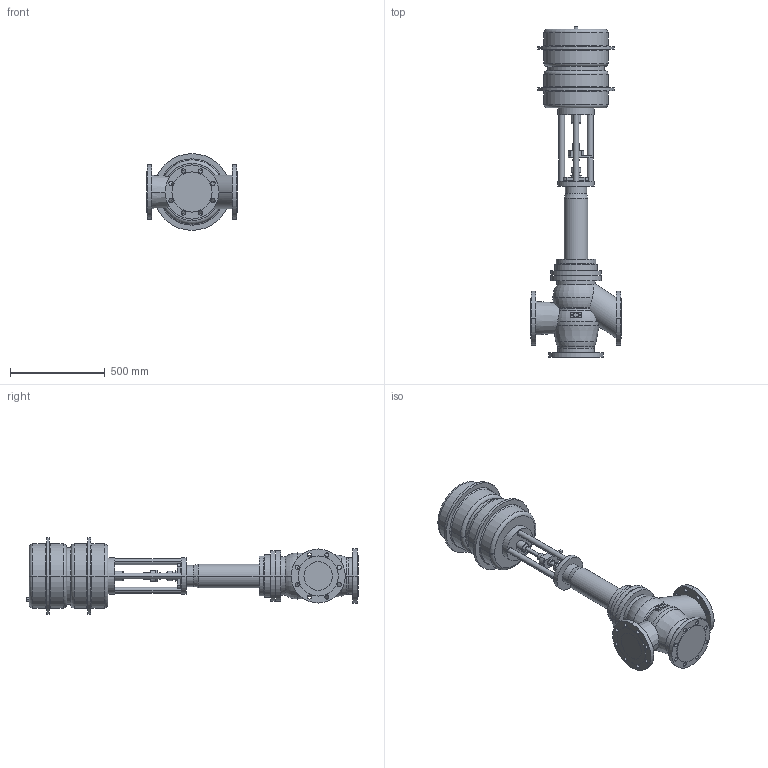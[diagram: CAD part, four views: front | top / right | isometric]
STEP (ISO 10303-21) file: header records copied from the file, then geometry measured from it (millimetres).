
FILE_DESCRIPTION(('OneSpaceDesigner STEP Export'),'2;1');
FILE_NAME('c000002427.stp','2007-01-26T13:32:10',(''),(''),'OneSpace Designer STEP processor for AP214 (Solid Model)','OneSpace Designer 14.00B 27-May-2006 (C) CoCreate Software GmbH','');
FILE_SCHEMA(('AUTOMOTIVE_DESIGN { 1 0 10303 214 1 1 1 1 }'));
Length unit declared in the file: millimetre
Products named in the file (2): 1; 2
Bounding box: 480 x 1751.5 x 405 mm (x, y, z)
Volume: 76332185.9 mm3; surface area: 2216267.7 mm2
Topology: 2 solids, 2 shells, 288 faces, 686 edges, 448 vertices
Faces by surface type: cylinder 150, plane 96, torus 34, cone 8
Entity records: 7617 total; most frequent: CARTESIAN_POINT 1495, ORIENTED_EDGE 1372, DIRECTION 1106, EDGE_CURVE 686, VERTEX_POINT 448, AXIS2_PLACEMENT_3D 415, EDGE_LOOP 382, FACE_OUTER_BOUND 288
